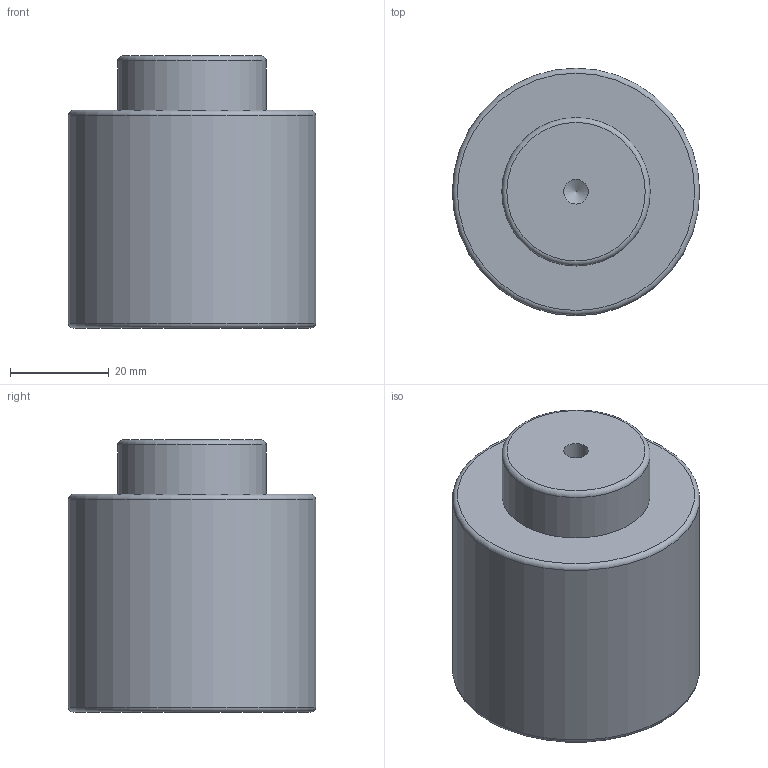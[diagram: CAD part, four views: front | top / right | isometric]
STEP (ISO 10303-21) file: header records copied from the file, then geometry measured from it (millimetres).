
FILE_DESCRIPTION(/* description */ (''),/* implementation_level */ '2;1');
FILE_NAME(/* name */ 'NV5-SMLX.50x10.stp',/* time_stamp */ '2018-08-31T16:08:35+02:00',/* author */ (''),/* organization */ (''),/* preprocessor_version */ 'ST-DEVELOPER v16',/* originating_system */ 'SIEMENS PLM Software NX 10.0',/* authorisation */ '');
FILE_SCHEMA (('AUTOMOTIVE_DESIGN { 1 0 10303 214 3 1 1 1 }'));
Length unit declared in the file: millimetre
Products named in the file (1): NV5-SMLX.50x10
Bounding box: 50 x 50 x 55 mm (x, y, z)
Volume: 92843.7 mm3; surface area: 12338.1 mm2
Topology: 1 solids, 1 shells, 12 faces, 24 edges, 15 vertices
Faces by surface type: cylinder 4, torus 3, plane 3, cone 2
Full cylindrical faces by diameter (mm): 5 x1, 8.5 x1, 30 x1, 50 x1
Entity records: 266 total; most frequent: DIRECTION 48, CARTESIAN_POINT 37, FACE_BOUND 24, AXIS2_PLACEMENT_3D 24, EDGE_LOOP 22, ORIENTED_EDGE 22, VERTEX_POINT 13, ADVANCED_FACE 12
